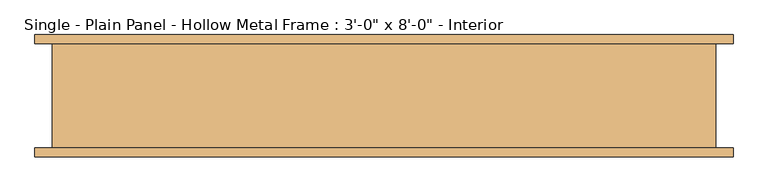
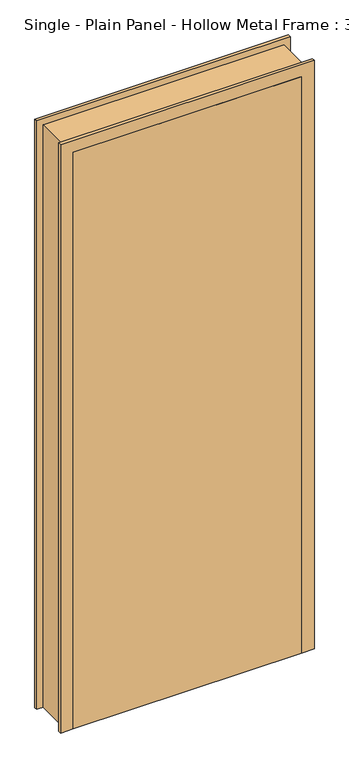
"""IFC4 building model written with IfcOpenShell, lengths in millimetres: door geometry."""

from ifc_helpers import new_model, si_unit, origin, origin_with_axes, place, context, project, spatial, polyline, outline, extrude, faceted_brep, source, transform, mapped, element, save


def door_048e38b4(model_context):
    return source(origin(), model_context, "Body", "SolidModel", [
        extrude(outline(polyline([(457.2, -44.45), (457.2, -88.9), (-457.2, -88.9), (-457.2, -44.45), (457.2, -44.45)])), origin_with_axes(), (0.0, 0.0, 1.0), 2438.4),
        faceted_brep([(508.0, 76.2, 0.0), (482.6, 76.2, 0.0), (482.6, -76.2, 0.0), (508.0, -76.2, 0.0), (508.0, -88.9, 0.0), (457.2, -88.9, 0.0), (457.2, -44.45, 0.0), (441.325, -44.45, 0.0), (441.325, 6.35, 0.0), (457.2, 6.35, 0.0), (457.2, 88.9, 0.0), (508.0, 88.9, 0.0), (508.0, 88.9, 2489.2), (508.0, 76.2, 2489.2), (457.2, 88.9, 2438.4), (-457.2, 88.9, 2438.4), (-457.2, 88.9, 0.0), (-508.0, 88.9, 0.0), (-508.0, 88.9, 2489.2), (457.2, 6.35, 2438.4), (441.325, 6.35, 2422.525), (-441.325, 6.35, 2422.525), (-441.325, 6.35, 0.0), (-457.2, 6.35, 0.0), (-457.2, 6.35, 2438.4), (441.325, -44.45, 2422.525), (457.2, -44.45, 2438.4), (-457.2, -44.45, 2438.4), (-457.2, -44.45, 0.0), (-441.325, -44.45, 0.0), (-441.325, -44.45, 2422.525), (457.2, -88.9, 2438.4), (508.0, -88.9, 2489.2), (-508.0, -88.9, 2489.2), (-508.0, -88.9, 0.0), (-457.2, -88.9, 0.0), (-457.2, -88.9, 2438.4), (508.0, -76.2, 2489.2), (482.6, -76.2, 2463.8), (-482.6, -76.2, 2463.8), (-482.6, -76.2, 0.0), (-508.0, -76.2, 0.0), (-508.0, -76.2, 2489.2), (482.6, 76.2, 2463.8), (-508.0, 76.2, 2489.2), (-508.0, 76.2, 0.0), (-482.6, 76.2, 0.0), (-482.6, 76.2, 2463.8)], [[[0, 1, 2, 3, 4, 5, 6, 7, 8, 9, 10, 11]], [[11, 12, 13, 0]], [[10, 14, 15, 16, 17, 18, 12, 11]], [[9, 19, 14, 10]], [[8, 20, 21, 22, 23, 24, 19, 9]], [[7, 25, 20, 8]], [[6, 26, 27, 28, 29, 30, 25, 7]], [[5, 31, 26, 6]], [[4, 32, 33, 34, 35, 36, 31, 5]], [[3, 37, 32, 4]], [[2, 38, 39, 40, 41, 42, 37, 3]], [[1, 43, 38, 2]], [[0, 13, 44, 45, 46, 47, 43, 1]], [[18, 17, 45, 44]], [[45, 17, 16, 23, 22, 29, 28, 35, 34, 41, 40, 46]], [[24, 23, 16, 15]], [[30, 29, 22, 21]], [[36, 35, 28, 27]], [[42, 41, 34, 33]], [[47, 46, 40, 39]], [[12, 18, 44, 13]], [[19, 24, 15, 14]], [[25, 30, 21, 20]], [[31, 36, 27, 26]], [[37, 42, 33, 32]], [[43, 47, 39, 38]]]),
    ])


if __name__ == "__main__":
    model = new_model("IFC4")
    model_context = context("Model", 3, world=origin())
    ifc_project = project(units=[si_unit("LENGTHUNIT", "METRE", prefix="MILLI")], contexts=[model_context])
    site = spatial("IfcSite", under=ifc_project)
    building = spatial("IfcBuilding", under=site)
    placement = place(None, origin())
    door_shape = door_048e38b4(model_context)
    element("IfcDoor", 1, ObjectType="Single - Plain Panel - Hollow Metal Frame : 3'-0\" x 8'-0\" - Interior", at=placement, inside=building, context=model_context, shape_type="MappedRepresentation", body=[
        mapped(door_shape, transform((0.0, 0.0, 0.0), x_axis=(1.0, 0.0, 0.0), y_axis=(0.0, 1.0, 0.0), z_axis=(0.0, 0.0, 1.0))),
    ])
    save(model, "model.ifc")
